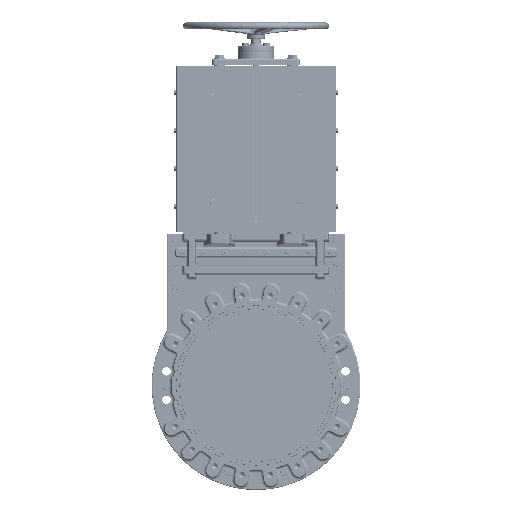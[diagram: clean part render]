
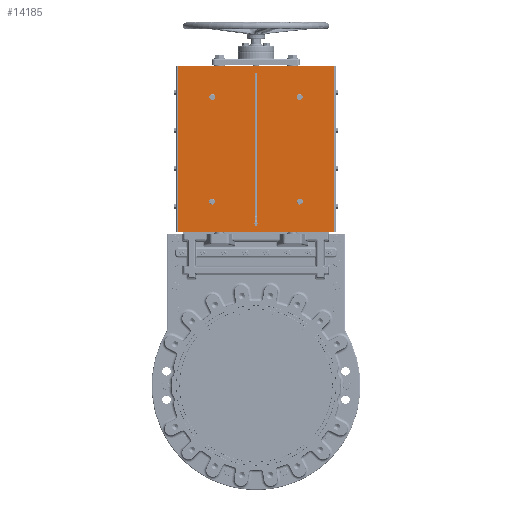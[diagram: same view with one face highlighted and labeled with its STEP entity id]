
A CAD part, top view. The second image highlights one B-rep face of the part: STEP entity #14185.
In plain terms, the highlighted planar face has unit normal (0, 0, 1).
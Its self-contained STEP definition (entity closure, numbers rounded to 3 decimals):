
#10139=PLANE('',#72163);
#14185=ADVANCED_FACE('',(#17619,#17620,#17621,#17622,#17623,#17624),#10139,
 .F.);
#17619=FACE_BOUND('',#23176,.T.);
#17620=FACE_BOUND('',#23177,.T.);
#17621=FACE_BOUND('',#23178,.T.);
#17622=FACE_BOUND('',#23179,.T.);
#17623=FACE_BOUND('',#23180,.T.);
#17624=FACE_BOUND('',#23181,.T.);
#23176=EDGE_LOOP('',(#43591));
#23177=EDGE_LOOP('',(#43592));
#23178=EDGE_LOOP('',(#43593,#43594,#43595,#43596));
#23179=EDGE_LOOP('',(#43597,#43598,#43599,#43600));
#23180=EDGE_LOOP('',(#43601));
#23181=EDGE_LOOP('',(#43602));
#26378=CIRCLE('',#71767,10.);
#26426=CIRCLE('',#71872,5.);
#26428=CIRCLE('',#71875,5.);
#26548=CIRCLE('',#72160,10.);
#26549=CIRCLE('',#72161,10.);
#26550=CIRCLE('',#72162,10.);
#43591=ORIENTED_EDGE('',*,*,#59760,.F.);
#43592=ORIENTED_EDGE('',*,*,#59761,.F.);
#43593=ORIENTED_EDGE('',*,*,#59409,.F.);
#43594=ORIENTED_EDGE('',*,*,#59469,.T.);
#43595=ORIENTED_EDGE('',*,*,#59419,.T.);
#43596=ORIENTED_EDGE('',*,*,#59470,.T.);
#43597=ORIENTED_EDGE('',*,*,#59478,.T.);
#43598=ORIENTED_EDGE('',*,*,#59461,.T.);
#43599=ORIENTED_EDGE('',*,*,#59476,.T.);
#43600=ORIENTED_EDGE('',*,*,#59463,.F.);
#43601=ORIENTED_EDGE('',*,*,#59360,.T.);
#43602=ORIENTED_EDGE('',*,*,#59762,.T.);
#50473=VERTEX_POINT('',#145045);
#50510=VERTEX_POINT('',#145159);
#50511=VERTEX_POINT('',#145161);
#50520=VERTEX_POINT('',#145181);
#50521=VERTEX_POINT('',#145182);
#50551=VERTEX_POINT('',#145263);
#50552=VERTEX_POINT('',#145265);
#50553=VERTEX_POINT('',#145269);
#50554=VERTEX_POINT('',#145270);
#50771=VERTEX_POINT('',#146278);
#50772=VERTEX_POINT('',#146280);
#50773=VERTEX_POINT('',#146282);
#59360=EDGE_CURVE('',#50473,#50473,#26378,.T.);
#59409=EDGE_CURVE('',#50510,#50511,#63123,.T.);
#59419=EDGE_CURVE('',#50520,#50521,#63130,.T.);
#59461=EDGE_CURVE('',#50552,#50551,#63151,.T.);
#59463=EDGE_CURVE('',#50553,#50554,#63153,.T.);
#59469=EDGE_CURVE('',#50510,#50520,#63159,.T.);
#59470=EDGE_CURVE('',#50521,#50511,#63160,.T.);
#59476=EDGE_CURVE('',#50551,#50554,#26426,.T.);
#59478=EDGE_CURVE('',#50553,#50552,#26428,.T.);
#59760=EDGE_CURVE('',#50771,#50771,#26548,.T.);
#59761=EDGE_CURVE('',#50772,#50772,#26549,.T.);
#59762=EDGE_CURVE('',#50773,#50773,#26550,.T.);
#63123=LINE('',#145160,#66331);
#63130=LINE('',#145180,#66338);
#63151=LINE('',#145264,#66359);
#63153=LINE('',#145268,#66361);
#63159=LINE('',#145281,#66367);
#63160=LINE('',#145283,#66368);
#66331=VECTOR('',#86381,1.);
#66338=VECTOR('',#86396,1.);
#66359=VECTOR('',#86479,1.);
#66361=VECTOR('',#86483,1.);
#66367=VECTOR('',#86495,1.);
#66368=VECTOR('',#86498,1.);
#71767=AXIS2_PLACEMENT_3D('',#145044,#86254,#86255);
#71872=AXIS2_PLACEMENT_3D('',#145305,#86532,#86533);
#71875=AXIS2_PLACEMENT_3D('',#145308,#86538,#86539);
#72160=AXIS2_PLACEMENT_3D('',#146277,#87198,#87199);
#72161=AXIS2_PLACEMENT_3D('',#146279,#87200,#87201);
#72162=AXIS2_PLACEMENT_3D('',#146281,#87202,#87203);
#72163=AXIS2_PLACEMENT_3D('',#146283,#87204,#87205);
#86254=DIRECTION('',(0.,0.,-1.));
#86255=DIRECTION('',(-1.,0.,0.));
#86381=DIRECTION('',(1.,0.,0.));
#86396=DIRECTION('',(1.,0.,0.));
#86479=DIRECTION('',(0.,-1.,0.));
#86483=DIRECTION('',(0.,-1.,0.));
#86495=DIRECTION('',(0.,-1.,0.));
#86498=DIRECTION('',(0.,1.,0.));
#86532=DIRECTION('',(0.,0.,-1.));
#86533=DIRECTION('',(-1.,0.,0.));
#86538=DIRECTION('',(0.,0.,-1.));
#86539=DIRECTION('',(-1.,0.,0.));
#87198=DIRECTION('',(0.,0.,1.));
#87199=DIRECTION('',(1.,0.,0.));
#87200=DIRECTION('',(0.,0.,1.));
#87201=DIRECTION('',(1.,0.,0.));
#87202=DIRECTION('',(0.,0.,-1.));
#87203=DIRECTION('',(-1.,0.,0.));
#87204=DIRECTION('',(0.,0.,-1.));
#87205=DIRECTION('',(-1.,0.,0.));
#145044=CARTESIAN_POINT('',(-149.,895.281,100.292));
#145045=CARTESIAN_POINT('',(-159.,895.281,100.292));
#145159=CARTESIAN_POINT('',(-267.5,1000.281,100.292));
#145160=CARTESIAN_POINT('',(-196.5,1000.281,100.292));
#145161=CARTESIAN_POINT('',(269.5,1000.281,100.292));
#145180=CARTESIAN_POINT('',(-196.5,432.281,100.292));
#145181=CARTESIAN_POINT('',(-267.5,432.281,100.292));
#145182=CARTESIAN_POINT('',(269.5,432.281,100.292));
#145263=CARTESIAN_POINT('',(6.,458.781,100.292));
#145264=CARTESIAN_POINT('',(6.,995.281,100.292));
#145265=CARTESIAN_POINT('',(6.,973.781,100.292));
#145268=CARTESIAN_POINT('',(-4.,995.281,100.292));
#145269=CARTESIAN_POINT('',(-4.,973.781,100.292));
#145270=CARTESIAN_POINT('',(-4.,458.781,100.292));
#145281=CARTESIAN_POINT('',(-267.5,587.281,100.292));
#145283=CARTESIAN_POINT('',(269.5,995.281,100.292));
#145305=CARTESIAN_POINT('',(1.,458.781,100.292));
#145308=CARTESIAN_POINT('',(1.,973.781,100.292));
#146277=CARTESIAN_POINT('',(151.,895.281,100.292));
#146278=CARTESIAN_POINT('',(161.,895.281,100.292));
#146279=CARTESIAN_POINT('',(151.,537.281,100.292));
#146280=CARTESIAN_POINT('',(161.,537.281,100.292));
#146281=CARTESIAN_POINT('',(-149.,537.281,100.292));
#146282=CARTESIAN_POINT('',(-159.,537.281,100.292));
#146283=CARTESIAN_POINT('',(-196.5,995.281,100.292));
